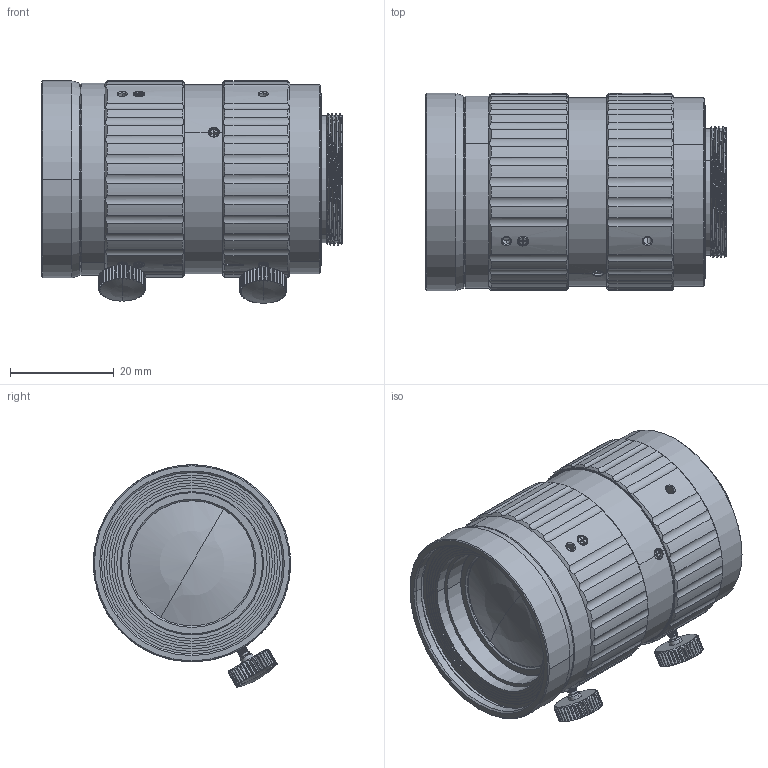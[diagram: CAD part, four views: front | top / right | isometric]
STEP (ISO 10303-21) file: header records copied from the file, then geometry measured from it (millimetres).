
FILE_DESCRIPTION((''),'2;1');
FILE_NAME('FA5020A-200_ASM_ASM','2019-03-25T',('Administrator'),(''),'PRO/ENGINEER BY PARAMETRIC TECHNOLOGY CORPORATION, 2010370','PRO/ENGINEER BY PARAMETRIC TECHNOLOGY CORPORATION, 2010370','');
FILE_SCHEMA(('CONFIG_CONTROL_DESIGN'));
Length unit declared in the file: millimetre
Products named in the file (21): MSBR-76; MSBR-75; MSBR-65; MSBR-64; MSBR-63; MSBR-62; MSBR-61; MSBR-60; MSBR-21; MSBR-20; MSBR-15; MSBR-14; MSBR-13; MSBR-12; MSBR-11; MSBR-6; MSBR-5; MSBR-4; MSBR-2; MSBR-1; FA5020A-200_ASM_ASM
Assembly tree (20 placements, depth 2):
  FA5020A-200_ASM_ASM
    MSBR-76
    MSBR-75
    MSBR-65
    MSBR-64
    MSBR-63
    MSBR-62
    MSBR-61
    MSBR-60
    MSBR-21
    MSBR-20
    MSBR-15
    MSBR-14
    MSBR-13
    MSBR-12
    MSBR-11
    MSBR-6
    MSBR-5
    MSBR-4
    MSBR-2
    MSBR-1
Bounding box: 57.88 x 38 x 42.9 mm (x, y, z)
Volume: 25712.5 mm3; surface area: 29407.6 mm2
Topology: 20 solids, 20 shells, 1120 faces, 2837 edges, 1782 vertices
Faces by surface type: cylinder 448, plane 313, cone 245, bspline 70, torus 32, sphere 12
Entity records: 47852 total; most frequent: CARTESIAN_POINT 20931, ORIENTED_EDGE 5650, DIRECTION 5537, EDGE_CURVE 2825, AXIS2_PLACEMENT_3D 2278, VERTEX_POINT 1782, EDGE_LOOP 1213, CIRCLE 1187
